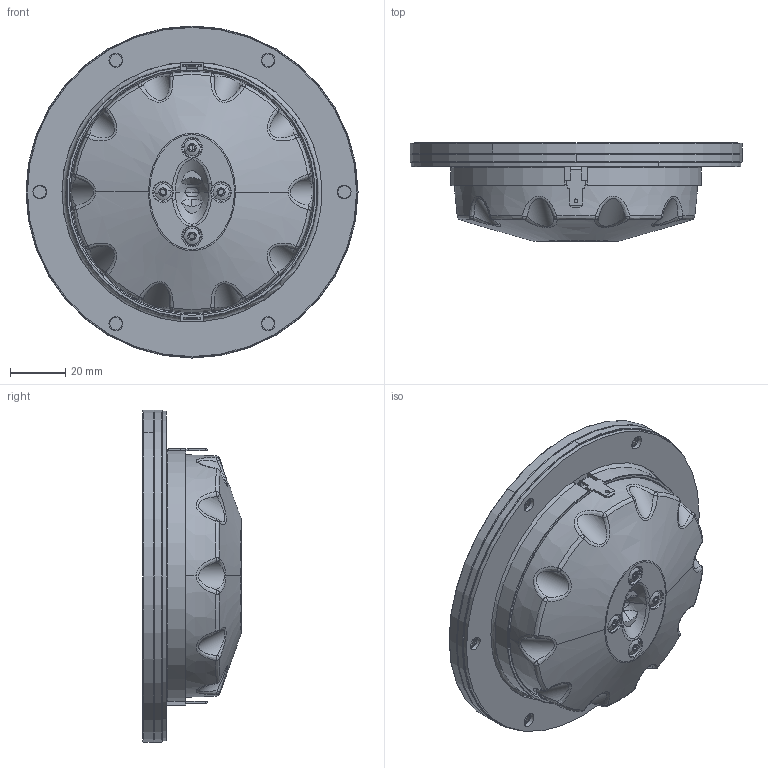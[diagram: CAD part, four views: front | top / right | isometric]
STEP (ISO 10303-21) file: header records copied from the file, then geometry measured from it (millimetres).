
FILE_DESCRIPTION (( 'STEP AP214' ), '1' );
FILE_NAME ('D3404-552000.STEP', '2020-12-15T05:52:06', ( '' ), ( '' ), 'SwSTEP 2.0', 'SolidWorks 2019', '' );
FILE_SCHEMA (( 'AUTOMOTIVE_DESIGN' ));
Length unit declared in the file: millimetre
Products named in the file (1): D3404-552000
Bounding box: 120 x 35.45 x 120 mm (x, y, z)
Volume: 205050.8 mm3; surface area: 50429.5 mm2
Topology: 3 solids, 29 shells, 848 faces, 2056 edges, 1261 vertices
Faces by surface type: cylinder 269, bspline 157, plane 140, cone 113, torus 109, sphere 60
Entity records: 52545 total; most frequent: CARTESIAN_POINT 25841, ORIENTED_EDGE 4060, DIRECTION 3541, EDGE_CURVE 2030, AXIS2_PLACEMENT_3D 1581, VERTEX_POINT 1261, EDGE_LOOP 893, CIRCLE 889
